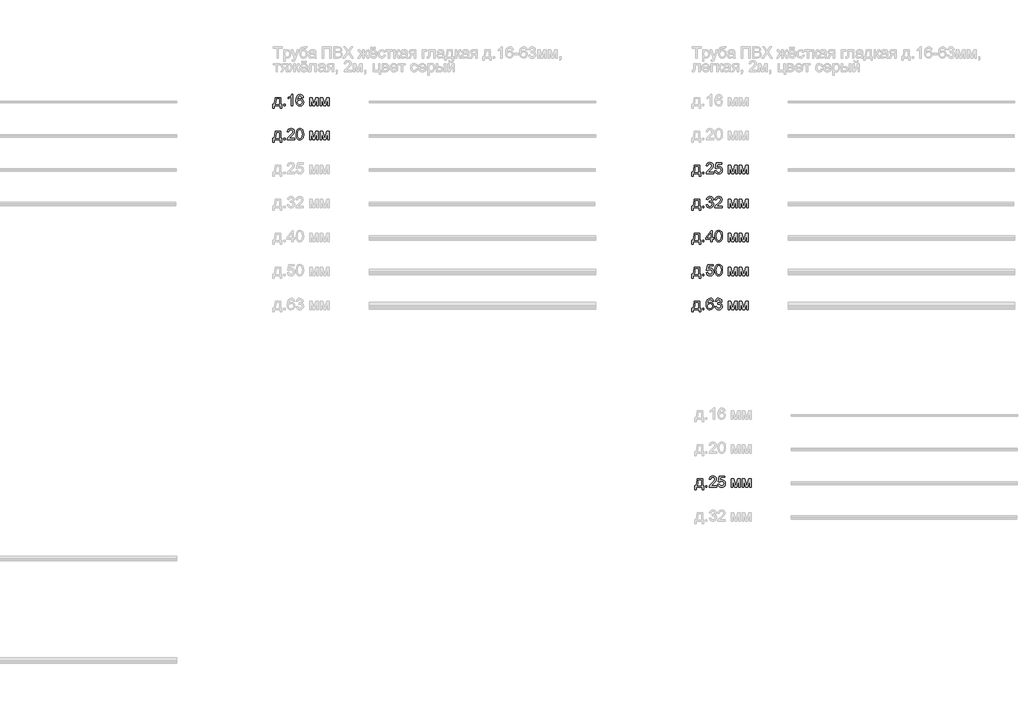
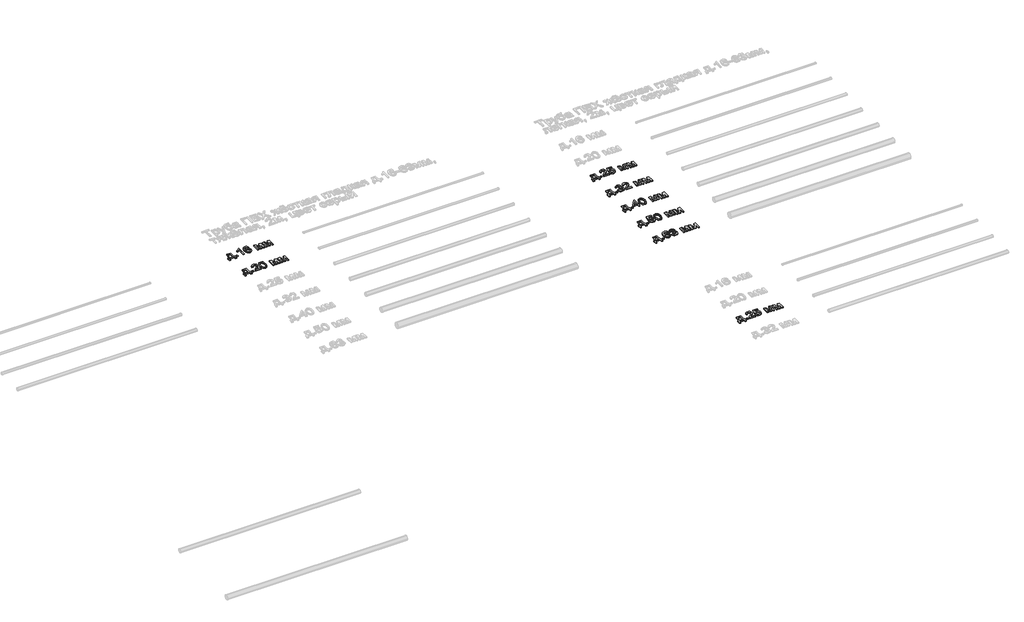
# One storey, part 95 of 98: 8 proxies.
"""IFC4 building model written with IfcOpenShell, lengths in millimetres."""

from ifc_helpers import new_model, si_unit, origin, origin_with_axes, place, context, project, spatial, polyline, outline, extrude, element, save

model = new_model("IFC4")

# Units and contexts
model_context = context("Model", 3, world=origin())
ifc_project = project(units=[si_unit("LENGTHUNIT", "METRE", prefix="MILLI")], contexts=[model_context])

# Site, building, storey
site = spatial("IfcSite", under=ifc_project)
building = spatial("IfcBuilding", under=site)
storey = spatial("IfcBuildingStorey", under=building, Name="Этаж 01", Elevation=0.0)

# Proxies
placement = place(None, origin())
element("IfcBuildingElementProxy", 1, Name="100", ObjectType="100", at=placement, inside=storey, context=model_context, shape_type="SweptSolid", body=[
    extrude(outline(polyline([(11073.0141865, -3563.7647458), (11120.1030819, -3563.7647458), (11120.1030819, -3624.9803098), (11129.520861, -3624.9803098), (11129.520861, -3657.9425366), (11116.9638222, -3657.9425366), (11116.9638222, -3637.5373486), (11065.1660373, -3637.5373486), (11065.1660373, -3657.9425366), (11052.6089985, -3657.9425366), (11052.6089985, -3624.9803098), (11060.4571478, -3624.9803098), (11070.1569697, -3601.031192), (11073.0141865, -3563.7647458)]), holes=[polyline([(11084.0015955, -3576.3217846), (11081.0585395, -3604.9307411), (11074.5838164, -3624.9803098), (11107.5460431, -3624.9803098), (11107.5460431, -3576.3217846), (11084.0015955, -3576.3217846)])]), origin_with_axes(), (0.0, 0.0, 1.0), 10.0),
    extrude(outline(polyline([(11146.7867893, -3637.5373486), (11146.7867893, -3624.9803098), (11159.3438281, -3624.9803098), (11159.3438281, -3637.5373486), (11146.7867893, -3637.5373486)])), origin_with_axes(), (0.0, 0.0, 1.0), 10.0),
    extrude(outline(polyline([(11226.8379114, -3637.5373486), (11214.2808727, -3637.5373486), (11214.2808727, -3559.25206), (11202.3860215, -3567.7256087), (11189.1667951, -3574.0654417), (11189.1667951, -3562.195116), (11207.5731576, -3550.4474176), (11218.7445076, -3537.0810385), (11226.8379114, -3537.0810385), (11226.8379114, -3637.5373486)])), origin_with_axes(), (0.0, 0.0, 1.0), 10.0),
    extrude(outline(polyline([(11321.0157022, -3563.7647458), (11308.4586634, -3565.3343757), (11303.700723, -3554.8620016), (11291.1191587, -3549.6380772), (11279.7883933, -3552.6792351), (11271.2167428, -3564.0958396), (11267.6482874, -3586.4753277), (11278.7215355, -3576.4566747), (11292.4435339, -3573.1825249), (11304.0440795, -3575.4204737), (11313.7806896, -3582.1343201), (11320.3841715, -3592.3920964), (11322.5853321, -3605.2618349), (11318.4405282, -3622.5890769), (11307.0361864, -3634.85181), (11290.5795985, -3639.1069785), (11276.3333682, -3636.2865498), (11264.9872743, -3627.8252639), (11257.5652551, -3612.8892549), (11255.0912487, -3590.644657), (11257.8381009, -3565.6348127), (11266.0786576, -3548.5344312), (11277.3297153, -3539.9443867), (11291.9039737, -3537.0810385), (11302.9220394, -3538.8530034), (11311.7450759, -3544.1688982), (11317.9254935, -3552.61179), (11321.0157022, -3563.7647458)]), holes=[polyline([(11267.6482874, -3605.0656312), (11270.5545552, -3615.9426755), (11278.2800771, -3623.8398757), (11289.5985798, -3626.5499397), (11297.8851218, -3625.1458567), (11304.3996988, -3620.9336079), (11308.6211447, -3614.311732), (11310.0282933, -3605.6787678), (11308.6395388, -3597.3922259), (11304.4732752, -3591.0738526), (11297.8483336, -3587.0731359), (11289.083545, -3585.7395637), (11273.8900186, -3591.0738526), (11269.2087202, -3597.2389417), (11267.6482874, -3605.0656312)])]), origin_with_axes(), (0.0, 0.0, 1.0), 10.0),
    extrude(outline(polyline([(11375.9527468, -3563.7647458), (11397.5596827, -3563.7647458), (11414.2124743, -3622.8220688), (11432.1651157, -3563.7647458), (11452.8646093, -3563.7647458), (11452.8646093, -3637.5373486), (11440.3075705, -3637.5373486), (11440.3075705, -3578.1366691), (11422.2568273, -3637.5373486), (11405.7757139, -3637.5373486), (11388.5097856, -3575.291715), (11388.5097856, -3637.5373486), (11375.9527468, -3637.5373486), (11375.9527468, -3563.7647458)])), origin_with_axes(), (0.0, 0.0, 1.0), 10.0),
    extrude(outline(polyline([(11471.7001674, -3563.7647458), (11493.3071033, -3563.7647458), (11509.9598949, -3622.8220688), (11527.9125363, -3563.7647458), (11548.6120299, -3563.7647458), (11548.6120299, -3637.5373486), (11536.0549911, -3637.5373486), (11536.0549911, -3578.1366691), (11518.0042479, -3637.5373486), (11501.5231345, -3637.5373486), (11484.2572062, -3575.291715), (11484.2572062, -3637.5373486), (11471.7001674, -3637.5373486), (11471.7001674, -3563.7647458)])), origin_with_axes(), (0.0, 0.0, 1.0), 10.0),
])
element("IfcBuildingElementProxy", 2, Name="100", ObjectType="100", at=placement, inside=storey, context=model_context, shape_type="SweptSolid", body=[
    extrude(outline(polyline([(11073.0141865, -3863.7647458), (11120.1030819, -3863.7647458), (11120.1030819, -3924.9803098), (11129.520861, -3924.9803098), (11129.520861, -3957.9425366), (11116.9638222, -3957.9425366), (11116.9638222, -3937.5373486), (11065.1660373, -3937.5373486), (11065.1660373, -3957.9425366), (11052.6089985, -3957.9425366), (11052.6089985, -3924.9803098), (11060.4571478, -3924.9803098), (11070.1569697, -3901.031192), (11073.0141865, -3863.7647458)]), holes=[polyline([(11084.0015955, -3876.3217846), (11081.0585395, -3904.9307411), (11074.5838164, -3924.9803098), (11107.5460431, -3924.9803098), (11107.5460431, -3876.3217846), (11084.0015955, -3876.3217846)])]), origin_with_axes(), (0.0, 0.0, 1.0), 10.0),
    extrude(outline(polyline([(11146.7867893, -3937.5373486), (11146.7867893, -3924.9803098), (11159.3438281, -3924.9803098), (11159.3438281, -3937.5373486), (11146.7867893, -3937.5373486)])), origin_with_axes(), (0.0, 0.0, 1.0), 10.0),
    extrude(outline(polyline([(11244.1038398, -3924.9803098), (11244.1038398, -3937.5373486), (11178.1793862, -3937.5373486), (11179.5282869, -3928.879859), (11187.1557069, -3915.550268), (11202.8765308, -3900.9944038), (11224.5570431, -3880.074181), (11229.9771711, -3865.8494105), (11224.8636114, -3854.334704), (11211.509495, -3849.6380772), (11197.5912928, -3854.2243394), (11192.3060548, -3866.9040055), (11179.7490161, -3865.3343757), (11182.7932396, -3853.1881385), (11189.3752616, -3844.316051), (11199.1517256, -3838.8897916), (11211.7792751, -3837.0810385), (11224.4987951, -3839.0921267), (11234.256865, -3845.1253914), (11240.4648737, -3854.1385003), (11242.5342099, -3865.089121), (11240.3023925, -3876.9962349), (11232.8834389, -3889.308019), (11214.8940093, -3906.5126337), (11200.4485097, -3918.5914259), (11194.7831269, -3924.9803098), (11244.1038398, -3924.9803098)])), origin_with_axes(), (0.0, 0.0, 1.0), 10.0),
    extrude(outline(polyline([(11256.6608785, -3888.1185339), (11260.3519612, -3859.2152718), (11271.3148447, -3842.5502175), (11289.6231053, -3837.0810385), (11304.2893342, -3840.3184), (11314.4183518, -3849.65034), (11320.3044637, -3864.5127726), (11322.5853321, -3888.1185339), (11318.9310376, -3916.8991687), (11308.0049423, -3933.6010113), (11299.7735827, -3937.7304867), (11289.6231053, -3939.1069785), (11276.5755572, -3936.7157455), (11266.6672688, -3929.5420466), (11259.1624761, -3912.5520298), (11256.6608785, -3888.1185339)]), holes=[polyline([(11269.2179173, -3888.0940085), (11270.6894453, -3907.8462059), (11275.1040292, -3919.2781389), (11281.6768542, -3924.7319895), (11289.6231053, -3926.5499397), (11297.5693564, -3924.7258581), (11304.1421814, -3919.2536135), (11308.5567653, -3907.8155491), (11310.0282933, -3888.0940085), (11308.6058162, -3868.7863351), (11304.3383851, -3857.2654973), (11297.7778228, -3851.5449322), (11289.4759525, -3849.6380772), (11281.6155405, -3851.3180717), (11275.3002329, -3856.358055), (11270.7384962, -3868.5962627), (11269.2179173, -3888.0940085)])]), origin_with_axes(), (0.0, 0.0, 1.0), 10.0),
    extrude(outline(polyline([(11375.9527468, -3863.7647458), (11397.5596827, -3863.7647458), (11414.2124743, -3922.8220688), (11432.1651157, -3863.7647458), (11452.8646093, -3863.7647458), (11452.8646093, -3937.5373486), (11440.3075705, -3937.5373486), (11440.3075705, -3878.1366691), (11422.2568273, -3937.5373486), (11405.7757139, -3937.5373486), (11388.5097856, -3875.291715), (11388.5097856, -3937.5373486), (11375.9527468, -3937.5373486), (11375.9527468, -3863.7647458)])), origin_with_axes(), (0.0, 0.0, 1.0), 10.0),
    extrude(outline(polyline([(11471.7001674, -3863.7647458), (11493.3071033, -3863.7647458), (11509.9598949, -3922.8220688), (11527.9125363, -3863.7647458), (11548.6120299, -3863.7647458), (11548.6120299, -3937.5373486), (11536.0549911, -3937.5373486), (11536.0549911, -3878.1366691), (11518.0042479, -3937.5373486), (11501.5231345, -3937.5373486), (11484.2572062, -3875.291715), (11484.2572062, -3937.5373486), (11471.7001674, -3937.5373486), (11471.7001674, -3863.7647458)])), origin_with_axes(), (0.0, 0.0, 1.0), 10.0),
])
element("IfcBuildingElementProxy", 3, Name="100", ObjectType="100", at=placement, inside=storey, context=model_context, shape_type="SweptSolid", body=[
    extrude(outline(polyline([(14773.0141865, -4163.7647458), (14820.1030819, -4163.7647458), (14820.1030819, -4224.9803098), (14829.520861, -4224.9803098), (14829.520861, -4257.9425366), (14816.9638222, -4257.9425366), (14816.9638222, -4237.5373486), (14765.1660373, -4237.5373486), (14765.1660373, -4257.9425366), (14752.6089985, -4257.9425366), (14752.6089985, -4224.9803098), (14760.4571478, -4224.9803098), (14770.1569697, -4201.031192), (14773.0141865, -4163.7647458)]), holes=[polyline([(14784.0015955, -4176.3217846), (14781.0585395, -4204.9307411), (14774.5838164, -4224.9803098), (14807.5460431, -4224.9803098), (14807.5460431, -4176.3217846), (14784.0015955, -4176.3217846)])]), origin_with_axes(), (0.0, 0.0, 1.0), 10.0),
    extrude(outline(polyline([(14846.7867893, -4237.5373486), (14846.7867893, -4224.9803098), (14859.3438281, -4224.9803098), (14859.3438281, -4237.5373486), (14846.7867893, -4237.5373486)])), origin_with_axes(), (0.0, 0.0, 1.0), 10.0),
    extrude(outline(polyline([(14944.1038398, -4224.9803098), (14944.1038398, -4237.5373486), (14878.1793862, -4237.5373486), (14879.5282869, -4228.879859), (14887.1557069, -4215.550268), (14902.8765308, -4200.9944038), (14924.5570431, -4180.074181), (14929.9771711, -4165.8494105), (14924.8636114, -4154.334704), (14911.509495, -4149.6380772), (14897.5912928, -4154.2243394), (14892.3060548, -4166.9040055), (14879.7490161, -4165.3343757), (14882.7932396, -4153.1881385), (14889.3752616, -4144.316051), (14899.1517256, -4138.8897916), (14911.7792751, -4137.0810385), (14924.4987951, -4139.0921267), (14934.256865, -4145.1253914), (14940.4648737, -4154.1385003), (14942.5342099, -4165.089121), (14940.3023925, -4176.9962349), (14932.8834389, -4189.308019), (14914.8940093, -4206.5126337), (14900.4485097, -4218.5914259), (14894.7831269, -4224.9803098), (14944.1038398, -4224.9803098)])), origin_with_axes(), (0.0, 0.0, 1.0), 10.0),
    extrude(outline(polyline([(14956.6608785, -4210.8536412), (14969.2179173, -4209.2840114), (14975.5454876, -4222.2211949), (14988.6666121, -4226.5499397), (14997.6674583, -4225.0446892), (15004.4119615, -4220.5289377), (15008.6242103, -4213.5238514), (15010.0282933, -4204.5505964), (15004.7675808, -4189.6391128), (14998.1610333, -4185.5372286), (14988.8628158, -4184.1699338), (14977.8386187, -4186.3527004), (14970.7875471, -4192.0180831), (14958.2305084, -4190.4484532), (14969.2179173, -4138.6506683), (15017.8764425, -4138.6506683), (15017.8764425, -4151.2077071), (14979.3714604, -4151.2077071), (14974.0003832, -4178.8724331), (14982.9705725, -4173.4277796), (14992.3699575, -4171.6128951), (15004.1023275, -4173.8631066), (15013.8420033, -4180.6137412), (15020.3994999, -4190.9021744), (15022.5853321, -4203.7657815), (15020.6171634, -4216.3228202), (15014.7126574, -4227.0649745), (15003.4064174, -4236.0964775), (14988.6175612, -4239.1069785), (14976.2843173, -4237.1725323), (14966.4588023, -4231.3691938), (14959.7234961, -4222.3714134), (14956.6608785, -4210.8536412)])), origin_with_axes(), (0.0, 0.0, 1.0), 10.0),
    extrude(outline(polyline([(15075.9527468, -4163.7647458), (15097.5596827, -4163.7647458), (15114.2124743, -4222.8220688), (15132.1651157, -4163.7647458), (15152.8646093, -4163.7647458), (15152.8646093, -4237.5373486), (15140.3075705, -4237.5373486), (15140.3075705, -4178.1366691), (15122.2568273, -4237.5373486), (15105.7757139, -4237.5373486), (15088.5097856, -4175.291715), (15088.5097856, -4237.5373486), (15075.9527468, -4237.5373486), (15075.9527468, -4163.7647458)])), origin_with_axes(), (0.0, 0.0, 1.0), 10.0),
    extrude(outline(polyline([(15171.7001674, -4163.7647458), (15193.3071033, -4163.7647458), (15209.9598949, -4222.8220688), (15227.9125363, -4163.7647458), (15248.6120299, -4163.7647458), (15248.6120299, -4237.5373486), (15236.0549911, -4237.5373486), (15236.0549911, -4178.1366691), (15218.0042479, -4237.5373486), (15201.5231345, -4237.5373486), (15184.2572062, -4175.291715), (15184.2572062, -4237.5373486), (15171.7001674, -4237.5373486), (15171.7001674, -4163.7647458)])), origin_with_axes(), (0.0, 0.0, 1.0), 10.0),
])
element("IfcBuildingElementProxy", 4, Name="100", ObjectType="100", at=placement, inside=storey, context=model_context, shape_type="SweptSolid", body=[
    extrude(outline(polyline([(14773.0141865, -4463.7647458), (14820.1030819, -4463.7647458), (14820.1030819, -4524.9803098), (14829.520861, -4524.9803098), (14829.520861, -4557.9425366), (14816.9638222, -4557.9425366), (14816.9638222, -4537.5373486), (14765.1660373, -4537.5373486), (14765.1660373, -4557.9425366), (14752.6089985, -4557.9425366), (14752.6089985, -4524.9803098), (14760.4571478, -4524.9803098), (14770.1569697, -4501.031192), (14773.0141865, -4463.7647458)]), holes=[polyline([(14784.0015955, -4476.3217846), (14781.0585395, -4504.9307411), (14774.5838164, -4524.9803098), (14807.5460431, -4524.9803098), (14807.5460431, -4476.3217846), (14784.0015955, -4476.3217846)])]), origin_with_axes(), (0.0, 0.0, 1.0), 10.0),
    extrude(outline(polyline([(14846.7867893, -4537.5373486), (14846.7867893, -4524.9803098), (14859.3438281, -4524.9803098), (14859.3438281, -4537.5373486), (14846.7867893, -4537.5373486)])), origin_with_axes(), (0.0, 0.0, 1.0), 10.0),
    extrude(outline(polyline([(14879.7490161, -4510.8536412), (14892.3060548, -4509.2840114), (14899.2344991, -4522.5032377), (14912.196208, -4526.5499397), (14920.8046467, -4525.1581195), (14927.4510481, -4520.9826588), (14933.1164308, -4507.1993467), (14927.500099, -4494.2131123), (14913.2262776, -4489.0750271), (14904.4216352, -4490.4484532), (14905.8195868, -4477.8914145), (14907.830675, -4478.0385673), (14922.079971, -4474.4333237), (14926.8256487, -4469.8593242), (14928.4075413, -4463.3478129), (14923.8212791, -4453.5253636), (14912.0000043, -4449.6380772), (14900.0315767, -4453.5621518), (14893.8756847, -4465.3343757), (14881.3186459, -4463.7647458), (14885.01586, -4452.4891627), (14891.5948163, -4444.0707964), (14900.5956625, -4438.8284779), (14911.5585459, -4437.0810385), (14926.7030214, -4440.5268665), (14937.2980228, -4449.9446456), (14940.9645801, -4462.6120489), (14937.4819638, -4474.188069), (14927.181268, -4482.5022021), (14940.8664782, -4491.0861154), (14945.6734696, -4507.4200759), (14943.2699739, -4519.6582836), (14936.0594868, -4529.8854031), (14925.1763111, -4536.8015846), (14911.7547496, -4539.1069785), (14899.6146438, -4537.1388098), (14889.7308809, -4531.2343038), (14882.8576189, -4522.2028008), (14879.7490161, -4510.8536412)])), origin_with_axes(), (0.0, 0.0, 1.0), 10.0),
    extrude(outline(polyline([(15021.0157022, -4524.9803098), (15021.0157022, -4537.5373486), (14955.0912487, -4537.5373486), (14956.4401493, -4528.879859), (14964.0675694, -4515.550268), (14979.7883933, -4500.9944038), (15001.4689055, -4480.074181), (15006.8890336, -4465.8494105), (15001.7754739, -4454.334704), (14988.4213574, -4449.6380772), (14974.5031553, -4454.2243394), (14969.2179173, -4466.9040055), (14956.6608785, -4465.3343757), (14959.705102, -4453.1881385), (14966.2871241, -4444.316051), (14976.0635881, -4438.8897916), (14988.6911376, -4437.0810385), (15001.4106576, -4439.0921267), (15011.1687275, -4445.1253914), (15017.3767361, -4454.1385003), (15019.4460724, -4465.089121), (15017.2142549, -4476.9962349), (15009.7953014, -4489.308019), (14991.8058718, -4506.5126337), (14977.3603721, -4518.5914259), (14971.6949894, -4524.9803098), (15021.0157022, -4524.9803098)])), origin_with_axes(), (0.0, 0.0, 1.0), 10.0),
    extrude(outline(polyline([(15075.9527468, -4463.7647458), (15097.5596827, -4463.7647458), (15114.2124743, -4522.8220688), (15132.1651157, -4463.7647458), (15152.8646093, -4463.7647458), (15152.8646093, -4537.5373486), (15140.3075705, -4537.5373486), (15140.3075705, -4478.1366691), (15122.2568273, -4537.5373486), (15105.7757139, -4537.5373486), (15088.5097856, -4475.291715), (15088.5097856, -4537.5373486), (15075.9527468, -4537.5373486), (15075.9527468, -4463.7647458)])), origin_with_axes(), (0.0, 0.0, 1.0), 10.0),
    extrude(outline(polyline([(15171.7001674, -4463.7647458), (15193.3071033, -4463.7647458), (15209.9598949, -4522.8220688), (15227.9125363, -4463.7647458), (15248.6120299, -4463.7647458), (15248.6120299, -4537.5373486), (15236.0549911, -4537.5373486), (15236.0549911, -4478.1366691), (15218.0042479, -4537.5373486), (15201.5231345, -4537.5373486), (15184.2572062, -4475.291715), (15184.2572062, -4537.5373486), (15171.7001674, -4537.5373486), (15171.7001674, -4463.7647458)])), origin_with_axes(), (0.0, 0.0, 1.0), 10.0),
])
element("IfcBuildingElementProxy", 5, Name="100", ObjectType="100", at=placement, inside=storey, context=model_context, shape_type="SweptSolid", body=[
    extrude(outline(polyline([(14773.0141865, -4763.7647458), (14820.1030819, -4763.7647458), (14820.1030819, -4824.9803098), (14829.520861, -4824.9803098), (14829.520861, -4857.9425366), (14816.9638222, -4857.9425366), (14816.9638222, -4837.5373486), (14765.1660373, -4837.5373486), (14765.1660373, -4857.9425366), (14752.6089985, -4857.9425366), (14752.6089985, -4824.9803098), (14760.4571478, -4824.9803098), (14770.1569697, -4801.031192), (14773.0141865, -4763.7647458)]), holes=[polyline([(14784.0015955, -4776.3217846), (14781.0585395, -4804.9307411), (14774.5838164, -4824.9803098), (14807.5460431, -4824.9803098), (14807.5460431, -4776.3217846), (14784.0015955, -4776.3217846)])]), origin_with_axes(), (0.0, 0.0, 1.0), 10.0),
    extrude(outline(polyline([(14846.7867893, -4837.5373486), (14846.7867893, -4824.9803098), (14859.3438281, -4824.9803098), (14859.3438281, -4837.5373486), (14846.7867893, -4837.5373486)])), origin_with_axes(), (0.0, 0.0, 1.0), 10.0),
    extrude(outline(polyline([(14920.5593921, -4837.5373486), (14920.5593921, -4813.9929009), (14875.0401265, -4813.9929009), (14875.0401265, -4801.4358622), (14923.6986518, -4738.6506683), (14933.1164308, -4738.6506683), (14933.1164308, -4801.4358622), (14945.6734696, -4801.4358622), (14945.6734696, -4813.9929009), (14933.1164308, -4813.9929009), (14933.1164308, -4837.5373486), (14920.5593921, -4837.5373486)]), holes=[polyline([(14920.5593921, -4801.4358622), (14920.5593921, -4762.6365744), (14890.4911703, -4801.4358622), (14920.5593921, -4801.4358622)])]), origin_with_axes(), (0.0, 0.0, 1.0), 10.0),
    extrude(outline(polyline([(14956.6608785, -4788.1185339), (14960.3519612, -4759.2152718), (14971.3148447, -4742.5502175), (14989.6231053, -4737.0810385), (15004.2893342, -4740.3184), (15014.4183518, -4749.65034), (15020.3044637, -4764.5127726), (15022.5853321, -4788.1185339), (15018.9310376, -4816.8991687), (15008.0049423, -4833.6010113), (14999.7735827, -4837.7304867), (14989.6231053, -4839.1069785), (14976.5755572, -4836.7157455), (14966.6672688, -4829.5420466), (14959.1624761, -4812.5520298), (14956.6608785, -4788.1185339)]), holes=[polyline([(14969.2179173, -4788.0940085), (14970.6894453, -4807.8462059), (14975.1040292, -4819.2781389), (14981.6768542, -4824.7319895), (14989.6231053, -4826.5499397), (14997.5693564, -4824.7258581), (15004.1421814, -4819.2536135), (15008.5567653, -4807.8155491), (15010.0282933, -4788.0940085), (15008.6058162, -4768.7863351), (15004.3383851, -4757.2654973), (14997.7778228, -4751.5449322), (14989.4759525, -4749.6380772), (14981.6155405, -4751.3180717), (14975.3002329, -4756.358055), (14970.7384962, -4768.5962627), (14969.2179173, -4788.0940085)])]), origin_with_axes(), (0.0, 0.0, 1.0), 10.0),
    extrude(outline(polyline([(15075.9527468, -4763.7647458), (15097.5596827, -4763.7647458), (15114.2124743, -4822.8220688), (15132.1651157, -4763.7647458), (15152.8646093, -4763.7647458), (15152.8646093, -4837.5373486), (15140.3075705, -4837.5373486), (15140.3075705, -4778.1366691), (15122.2568273, -4837.5373486), (15105.7757139, -4837.5373486), (15088.5097856, -4775.291715), (15088.5097856, -4837.5373486), (15075.9527468, -4837.5373486), (15075.9527468, -4763.7647458)])), origin_with_axes(), (0.0, 0.0, 1.0), 10.0),
    extrude(outline(polyline([(15171.7001674, -4763.7647458), (15193.3071033, -4763.7647458), (15209.9598949, -4822.8220688), (15227.9125363, -4763.7647458), (15248.6120299, -4763.7647458), (15248.6120299, -4837.5373486), (15236.0549911, -4837.5373486), (15236.0549911, -4778.1366691), (15218.0042479, -4837.5373486), (15201.5231345, -4837.5373486), (15184.2572062, -4775.291715), (15184.2572062, -4837.5373486), (15171.7001674, -4837.5373486), (15171.7001674, -4763.7647458)])), origin_with_axes(), (0.0, 0.0, 1.0), 10.0),
])
element("IfcBuildingElementProxy", 6, Name="100", ObjectType="100", at=placement, inside=storey, context=model_context, shape_type="SweptSolid", body=[
    extrude(outline(polyline([(14773.0141865, -5063.7647458), (14820.1030819, -5063.7647458), (14820.1030819, -5124.9803098), (14829.520861, -5124.9803098), (14829.520861, -5157.9425366), (14816.9638222, -5157.9425366), (14816.9638222, -5137.5373486), (14765.1660373, -5137.5373486), (14765.1660373, -5157.9425366), (14752.6089985, -5157.9425366), (14752.6089985, -5124.9803098), (14760.4571478, -5124.9803098), (14770.1569697, -5101.031192), (14773.0141865, -5063.7647458)]), holes=[polyline([(14784.0015955, -5076.3217846), (14781.0585395, -5104.9307411), (14774.5838164, -5124.9803098), (14807.5460431, -5124.9803098), (14807.5460431, -5076.3217846), (14784.0015955, -5076.3217846)])]), origin_with_axes(), (0.0, 0.0, 1.0), 10.0),
    extrude(outline(polyline([(14846.7867893, -5137.5373486), (14846.7867893, -5124.9803098), (14859.3438281, -5124.9803098), (14859.3438281, -5137.5373486), (14846.7867893, -5137.5373486)])), origin_with_axes(), (0.0, 0.0, 1.0), 10.0),
    extrude(outline(polyline([(14879.7490161, -5110.8536412), (14892.3060548, -5109.2840114), (14898.6336251, -5122.2211949), (14911.7547496, -5126.5499397), (14920.7555958, -5125.0446892), (14927.500099, -5120.5289377), (14931.7123479, -5113.5238514), (14933.1164308, -5104.5505964), (14927.8557183, -5089.6391128), (14921.2491708, -5085.5372286), (14911.9509534, -5084.1699338), (14900.9267563, -5086.3527004), (14893.8756847, -5092.0180831), (14881.3186459, -5090.4484532), (14892.3060548, -5038.6506683), (14940.9645801, -5038.6506683), (14940.9645801, -5051.2077071), (14902.4595979, -5051.2077071), (14897.0885208, -5078.8724331), (14906.0587101, -5073.4277796), (14915.4580951, -5071.6128951), (14927.190465, -5073.8631066), (14936.9301408, -5080.6137412), (14943.4876374, -5090.9021744), (14945.6734696, -5103.7657815), (14943.7053009, -5116.3228202), (14937.8007949, -5127.0649745), (14926.4945549, -5136.0964775), (14911.7056987, -5139.1069785), (14899.3724548, -5137.1725323), (14889.5469399, -5131.3691938), (14882.8116337, -5122.3714134), (14879.7490161, -5110.8536412)])), origin_with_axes(), (0.0, 0.0, 1.0), 10.0),
    extrude(outline(polyline([(14956.6608785, -5088.1185339), (14960.3519612, -5059.2152718), (14971.3148447, -5042.5502175), (14989.6231053, -5037.0810385), (15004.2893342, -5040.3184), (15014.4183518, -5049.65034), (15020.3044637, -5064.5127726), (15022.5853321, -5088.1185339), (15018.9310376, -5116.8991687), (15008.0049423, -5133.6010113), (14999.7735827, -5137.7304867), (14989.6231053, -5139.1069785), (14976.5755572, -5136.7157455), (14966.6672688, -5129.5420466), (14959.1624761, -5112.5520298), (14956.6608785, -5088.1185339)]), holes=[polyline([(14969.2179173, -5088.0940085), (14970.6894453, -5107.8462059), (14975.1040292, -5119.2781389), (14981.6768542, -5124.7319895), (14989.6231053, -5126.5499397), (14997.5693564, -5124.7258581), (15004.1421814, -5119.2536135), (15008.5567653, -5107.8155491), (15010.0282933, -5088.0940085), (15008.6058162, -5068.7863351), (15004.3383851, -5057.2654973), (14997.7778228, -5051.5449322), (14989.4759525, -5049.6380772), (14981.6155405, -5051.3180717), (14975.3002329, -5056.358055), (14970.7384962, -5068.5962627), (14969.2179173, -5088.0940085)])]), origin_with_axes(), (0.0, 0.0, 1.0), 10.0),
    extrude(outline(polyline([(15075.9527468, -5063.7647458), (15097.5596827, -5063.7647458), (15114.2124743, -5122.8220688), (15132.1651157, -5063.7647458), (15152.8646093, -5063.7647458), (15152.8646093, -5137.5373486), (15140.3075705, -5137.5373486), (15140.3075705, -5078.1366691), (15122.2568273, -5137.5373486), (15105.7757139, -5137.5373486), (15088.5097856, -5075.291715), (15088.5097856, -5137.5373486), (15075.9527468, -5137.5373486), (15075.9527468, -5063.7647458)])), origin_with_axes(), (0.0, 0.0, 1.0), 10.0),
    extrude(outline(polyline([(15171.7001674, -5063.7647458), (15193.3071033, -5063.7647458), (15209.9598949, -5122.8220688), (15227.9125363, -5063.7647458), (15248.6120299, -5063.7647458), (15248.6120299, -5137.5373486), (15236.0549911, -5137.5373486), (15236.0549911, -5078.1366691), (15218.0042479, -5137.5373486), (15201.5231345, -5137.5373486), (15184.2572062, -5075.291715), (15184.2572062, -5137.5373486), (15171.7001674, -5137.5373486), (15171.7001674, -5063.7647458)])), origin_with_axes(), (0.0, 0.0, 1.0), 10.0),
])
element("IfcBuildingElementProxy", 7, Name="100", ObjectType="100", at=placement, inside=storey, context=model_context, shape_type="SweptSolid", body=[
    extrude(outline(polyline([(14773.0141865, -5363.7647458), (14820.1030819, -5363.7647458), (14820.1030819, -5424.9803098), (14829.520861, -5424.9803098), (14829.520861, -5457.9425366), (14816.9638222, -5457.9425366), (14816.9638222, -5437.5373486), (14765.1660373, -5437.5373486), (14765.1660373, -5457.9425366), (14752.6089985, -5457.9425366), (14752.6089985, -5424.9803098), (14760.4571478, -5424.9803098), (14770.1569697, -5401.031192), (14773.0141865, -5363.7647458)]), holes=[polyline([(14784.0015955, -5376.3217846), (14781.0585395, -5404.9307411), (14774.5838164, -5424.9803098), (14807.5460431, -5424.9803098), (14807.5460431, -5376.3217846), (14784.0015955, -5376.3217846)])]), origin_with_axes(), (0.0, 0.0, 1.0), 10.0),
    extrude(outline(polyline([(14846.7867893, -5437.5373486), (14846.7867893, -5424.9803098), (14859.3438281, -5424.9803098), (14859.3438281, -5437.5373486), (14846.7867893, -5437.5373486)])), origin_with_axes(), (0.0, 0.0, 1.0), 10.0),
    extrude(outline(polyline([(14944.1038398, -5363.7647458), (14931.546801, -5365.3343757), (14926.7888605, -5354.8620016), (14914.2072963, -5349.6380772), (14902.8765308, -5352.6792351), (14894.3048803, -5364.0958396), (14890.736425, -5386.4753277), (14901.809673, -5376.4566747), (14915.5316715, -5373.1825249), (14927.132217, -5375.4204737), (14936.8688272, -5382.1343201), (14943.472309, -5392.3920964), (14945.6734696, -5405.2618349), (14941.5286658, -5422.5890769), (14930.1243239, -5434.85181), (14913.667736, -5439.1069785), (14899.4215058, -5436.2865498), (14888.0754119, -5427.8252639), (14880.6533926, -5412.8892549), (14878.1793862, -5390.644657), (14880.9262384, -5365.6348127), (14889.1667951, -5348.5344312), (14900.4178528, -5339.9443867), (14914.9921112, -5337.0810385), (14926.010177, -5338.8530034), (14934.8332135, -5344.1688982), (14941.013631, -5352.61179), (14944.1038398, -5363.7647458)]), holes=[polyline([(14890.736425, -5405.0656312), (14893.6426927, -5415.9426755), (14901.3682146, -5423.8398757), (14912.6867174, -5426.5499397), (14920.9732593, -5425.1458567), (14927.4878363, -5420.9336079), (14931.7092822, -5414.311732), (14933.1164308, -5405.6787678), (14931.7276763, -5397.3922259), (14927.5614127, -5391.0738526), (14920.9364711, -5387.0731359), (14912.1716826, -5385.7395637), (14896.9781562, -5391.0738526), (14892.2968578, -5397.2389417), (14890.736425, -5405.0656312)])]), origin_with_axes(), (0.0, 0.0, 1.0), 10.0),
    extrude(outline(polyline([(14956.6608785, -5410.8536412), (14969.2179173, -5409.2840114), (14976.1463615, -5422.5032377), (14989.1080705, -5426.5499397), (14997.7165092, -5425.1581195), (15004.3629106, -5420.9826588), (15010.0282933, -5407.1993467), (15004.4119615, -5394.2131123), (14990.1381401, -5389.0750271), (14981.3334977, -5390.4484532), (14982.7314492, -5377.8914145), (14984.7425375, -5378.0385673), (14998.9918334, -5374.4333237), (15003.7375112, -5369.8593242), (15005.3194038, -5363.3478129), (15000.7331415, -5353.5253636), (14988.9118668, -5349.6380772), (14976.9434392, -5353.5621518), (14970.7875471, -5365.3343757), (14958.2305084, -5363.7647458), (14961.9277224, -5352.4891627), (14968.5066788, -5344.0707964), (14977.5075249, -5338.8284779), (14988.4704084, -5337.0810385), (15003.6148838, -5340.5268665), (15014.2098853, -5349.9446456), (15017.8764425, -5362.6120489), (15014.3938263, -5374.188069), (15004.0931304, -5382.5022021), (15017.7783407, -5391.0861154), (15022.5853321, -5407.4200759), (15020.1818364, -5419.6582836), (15012.9713493, -5429.8854031), (15002.0881736, -5436.8015846), (14988.6666121, -5439.1069785), (14976.5265063, -5437.1388098), (14966.6427433, -5431.2343038), (14959.7694814, -5422.2028008), (14956.6608785, -5410.8536412)])), origin_with_axes(), (0.0, 0.0, 1.0), 10.0),
    extrude(outline(polyline([(15075.9527468, -5363.7647458), (15097.5596827, -5363.7647458), (15114.2124743, -5422.8220688), (15132.1651157, -5363.7647458), (15152.8646093, -5363.7647458), (15152.8646093, -5437.5373486), (15140.3075705, -5437.5373486), (15140.3075705, -5378.1366691), (15122.2568273, -5437.5373486), (15105.7757139, -5437.5373486), (15088.5097856, -5375.291715), (15088.5097856, -5437.5373486), (15075.9527468, -5437.5373486), (15075.9527468, -5363.7647458)])), origin_with_axes(), (0.0, 0.0, 1.0), 10.0),
    extrude(outline(polyline([(15171.7001674, -5363.7647458), (15193.3071033, -5363.7647458), (15209.9598949, -5422.8220688), (15227.9125363, -5363.7647458), (15248.6120299, -5363.7647458), (15248.6120299, -5437.5373486), (15236.0549911, -5437.5373486), (15236.0549911, -5378.1366691), (15218.0042479, -5437.5373486), (15201.5231345, -5437.5373486), (15184.2572062, -5375.291715), (15184.2572062, -5437.5373486), (15171.7001674, -5437.5373486), (15171.7001674, -5363.7647458)])), origin_with_axes(), (0.0, 0.0, 1.0), 10.0),
])
element("IfcBuildingElementProxy", 8, Name="100", ObjectType="100", at=placement, inside=storey, context=model_context, shape_type="SweptSolid", body=[
    extrude(outline(polyline([(14799.2908403, -6932.1138523), (14846.3797357, -6932.1138523), (14846.3797357, -6993.3294163), (14855.7975148, -6993.3294163), (14855.7975148, -7026.2916431), (14843.240476, -7026.2916431), (14843.240476, -7005.8864551), (14791.4426911, -7005.8864551), (14791.4426911, -7026.2916431), (14778.8856523, -7026.2916431), (14778.8856523, -6993.3294163), (14786.7338015, -6993.3294163), (14796.4336235, -6969.3802985), (14799.2908403, -6932.1138523)]), holes=[polyline([(14810.2782492, -6944.6708911), (14807.3351933, -6973.2798476), (14800.8604702, -6993.3294163), (14833.8226969, -6993.3294163), (14833.8226969, -6944.6708911), (14810.2782492, -6944.6708911)])]), origin_with_axes(), (0.0, 0.0, 1.0), 10.0),
    extrude(outline(polyline([(14873.0634431, -7005.8864551), (14873.0634431, -6993.3294163), (14885.6204818, -6993.3294163), (14885.6204818, -7005.8864551), (14873.0634431, -7005.8864551)])), origin_with_axes(), (0.0, 0.0, 1.0), 10.0),
    extrude(outline(polyline([(14970.3804935, -6993.3294163), (14970.3804935, -7005.8864551), (14904.45604, -7005.8864551), (14905.8049406, -6997.2289655), (14913.4323607, -6983.8993745), (14929.1531846, -6969.3435103), (14950.8336969, -6948.4232875), (14956.2538249, -6934.198517), (14951.1402652, -6922.6838105), (14937.7861488, -6917.9871837), (14923.8679466, -6922.5734459), (14918.5827086, -6935.253112), (14906.0256698, -6933.6834822), (14909.0698934, -6921.537245), (14915.6519154, -6912.6651575), (14925.4283794, -6907.2388981), (14938.0559289, -6905.430145), (14950.7754489, -6907.4412332), (14960.5335188, -6913.4744979), (14966.7415275, -6922.4876068), (14968.8108637, -6933.4382275), (14966.5790463, -6945.3453414), (14959.1600927, -6957.6571255), (14941.1706631, -6974.8617402), (14926.7251634, -6986.9405324), (14921.0597807, -6993.3294163), (14970.3804935, -6993.3294163)])), origin_with_axes(), (0.0, 0.0, 1.0), 10.0),
    extrude(outline(polyline([(14982.9375323, -6979.2027477), (14995.4945711, -6977.6331179), (15001.8221414, -6990.5703014), (15014.9432659, -6994.8990462), (15023.944112, -6993.3937957), (15030.6886153, -6988.8780442), (15034.9008641, -6981.8729579), (15036.3049471, -6972.8997029), (15031.0442345, -6957.9882193), (15024.437687, -6953.8863351), (15015.1394696, -6952.5190403), (15004.1152725, -6954.7018069), (14997.0642009, -6960.3671896), (14984.5071622, -6958.7975597), (14995.4945711, -6906.9997748), (15044.1530963, -6906.9997748), (15044.1530963, -6919.5568136), (15005.6481141, -6919.5568136), (15000.277037, -6947.2215396), (15009.2472263, -6941.7768861), (15018.6466113, -6939.9620016), (15030.3789813, -6942.2122131), (15040.1186571, -6948.9628477), (15046.6761537, -6959.2512809), (15048.8619858, -6972.114888), (15046.8938172, -6984.6719267), (15040.9893111, -6995.414081), (15029.6830712, -7004.445584), (15014.894215, -7007.456085), (15002.5609711, -7005.5216388), (14992.7354561, -6999.7183003), (14986.0001499, -6990.7205199), (14982.9375323, -6979.2027477)])), origin_with_axes(), (0.0, 0.0, 1.0), 10.0),
    extrude(outline(polyline([(15102.2294006, -6932.1138523), (15123.8363365, -6932.1138523), (15140.4891281, -6991.1711753), (15158.4417695, -6932.1138523), (15179.1412631, -6932.1138523), (15179.1412631, -7005.8864551), (15166.5842243, -7005.8864551), (15166.5842243, -6946.4857756), (15148.5334811, -7005.8864551), (15132.0523677, -7005.8864551), (15114.7864394, -6943.6408215), (15114.7864394, -7005.8864551), (15102.2294006, -7005.8864551), (15102.2294006, -6932.1138523)])), origin_with_axes(), (0.0, 0.0, 1.0), 10.0),
    extrude(outline(polyline([(15197.9768212, -6932.1138523), (15219.5837571, -6932.1138523), (15236.2365487, -6991.1711753), (15254.1891901, -6932.1138523), (15274.8886837, -6932.1138523), (15274.8886837, -7005.8864551), (15262.3316449, -7005.8864551), (15262.3316449, -6946.4857756), (15244.2809017, -7005.8864551), (15227.7997883, -7005.8864551), (15210.53386, -6943.6408215), (15210.53386, -7005.8864551), (15197.9768212, -7005.8864551), (15197.9768212, -6932.1138523)])), origin_with_axes(), (0.0, 0.0, 1.0), 10.0),
])

save(model, "model.ifc")
